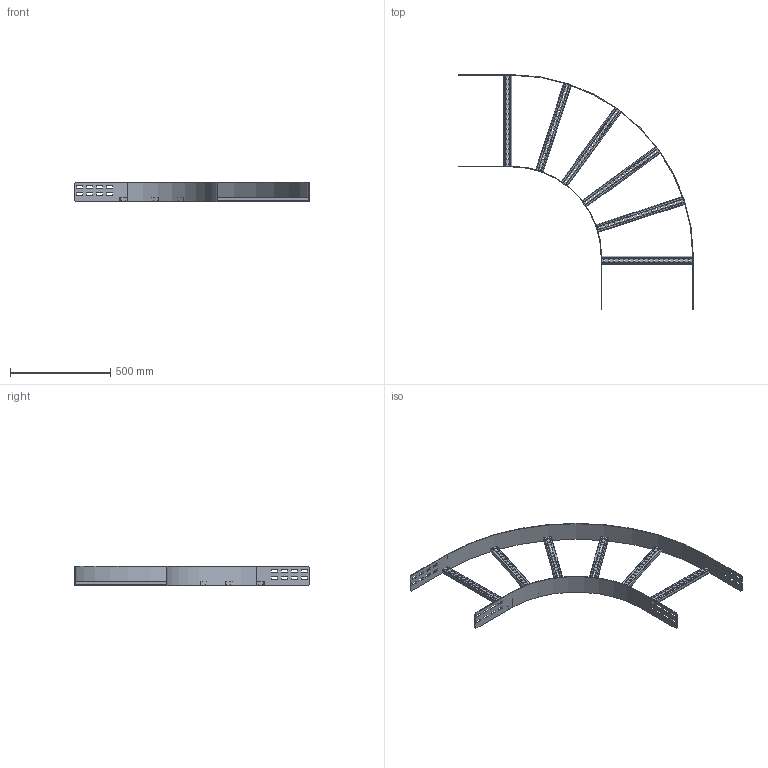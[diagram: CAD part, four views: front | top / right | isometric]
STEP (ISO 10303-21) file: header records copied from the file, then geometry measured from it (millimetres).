
FILE_DESCRIPTION(('Creo Elements/Direct Modeling STEP Export'),'2;1');
FILE_NAME('WPHB10-45-90-45-HDG.stp','2016-11-10T13:49:57',(''),(''),'PTC Creo Elements/Direct Modeling STEP processor for AP214 (Solid Model)','PTC Creo Elements/Direct Modeling 19.0C 15-Aug-2015 (C) Parametric Technology GmbH','');
FILE_SCHEMA(('AUTOMOTIVE_DESIGN { 1 0 10303 214 1 1 1 1 }'));
Length unit declared in the file: millimetre
Products named in the file (4): WPBI_100; WPHBA_100-45; WPHBS45; WPHB10-45-90-45-HDG
Assembly tree (8 placements, depth 2):
  WPHB10-45-90-45-HDG
    WPHBS45  x6
    WPHBA_100-45
    WPBI_100
Bounding box: 1173 x 1173 x 95 mm (x, y, z)
Volume: 1273720.7 mm3; surface area: 1159552.5 mm2
Topology: 8 solids, 8 shells, 828 faces, 2436 edges, 1624 vertices
Faces by surface type: plane 500, cylinder 328
Entity records: 9166 total; most frequent: CARTESIAN_POINT 1586, ORIENTED_EDGE 1572, DIRECTION 1454, EDGE_CURVE 786, VECTOR 670, LINE 670, VERTEX_POINT 524, AXIS2_PLACEMENT_3D 392
